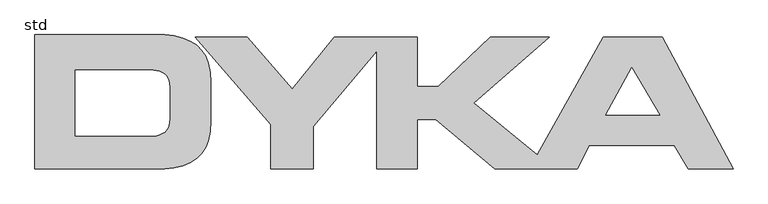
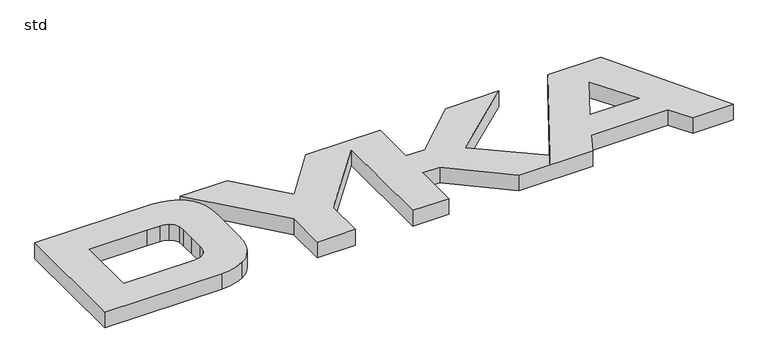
"""IFC4 building model written with IfcOpenShell, lengths in millimetres: flow terminal geometry, Dyka_Logo : std."""

from ifc_helpers import new_model, si_unit, point, frame_2d, origin, origin_with_axes, place, context, project, spatial, polyline, circle_curve, trimmed, segment, composite_curve, outline, extrude, source, transform, mapped, element, save


def std_3a02f17e(model_context):
    return source(origin(), model_context, "Body", "SweptSolid", [
        extrude(outline(composite_curve([segment(trimmed(circle_curve(frame_2d((-407.6218238, 142.0220605)), 114.8023161), [point((-404.9140154, 256.792438))], [point((-355.2267585, 244.1706234))], False, "CARTESIAN"), True, "CONTINUOUS"), segment(trimmed(circle_curve(frame_2d((-386.4123352, 184.7180485)), 67.1353026), [point((-355.2267585, 244.1706234))], [point((-321.7832771, 202.890382))], False, "CARTESIAN"), True, "CONTINUOUS"), segment(trimmed(circle_curve(frame_2d((-446.5963362, 168.0906986)), 129.5735995), [point((-321.7832771, 202.890382))], [point((-317.0389101, 166.0434992))], False, "CARTESIAN"), True, "CONTINUOUS"), segment(polyline([(-317.0389101, 166.0434992), (-317.0389101, 128.3962189), (-317.0389101, 90.7489386)]), True, "CONTINUOUS"), segment(trimmed(circle_curve(frame_2d((-446.5963362, 88.7017392)), 129.5735995), [point((-317.0389101, 90.7489386))], [point((-321.7832715, 53.9020758))], False, "CARTESIAN"), True, "CONTINUOUS"), segment(trimmed(circle_curve(frame_2d((-386.4123352, 72.0743895)), 67.1353026), [point((-321.7832715, 53.9020758))], [point((-355.2267585, 12.6218146))], False, "CARTESIAN"), True, "CONTINUOUS"), segment(trimmed(circle_curve(frame_2d((-407.6218238, 114.7703775)), 114.8023161), [point((-355.2267585, 12.6218146))], [point((-404.9140154, 0.0))], False, "CARTESIAN"), True, "CONTINUOUS"), segment(polyline([(-404.9140154, 0.0), (-653.2439211, 0.0), (-653.2439211, 256.792438), (-404.9140154, 256.792438)]), True, "CONTINUOUS")], self_intersect=False), holes=[composite_curve([segment(trimmed(circle_curve(frame_2d((-428.5478963, 147.8981447)), 41.3288337), [point((-409.6856729, 184.6716274))], [point((-427.573085, 189.2154805))], True, "CARTESIAN"), True, "CONTINUOUS"), segment(polyline([(-427.573085, 189.2154805), (-455.0181796, 189.2154805), (-576.6567028, 189.2154805), (-576.6567028, 63.0718268), (-427.573085, 63.0718268)]), True, "CONTINUOUS"), segment(trimmed(circle_curve(frame_2d((-428.5478963, 104.3891627)), 41.3288337), [point((-427.573085, 63.0718268))], [point((-409.6856729, 67.61568))], True, "CARTESIAN"), True, "CONTINUOUS"), segment(trimmed(circle_curve(frame_2d((-420.9124804, 89.018607)), 24.1687089), [point((-409.6856729, 67.61568))], [point((-397.6460231, 82.4765542))], True, "CARTESIAN"), True, "CONTINUOUS"), segment(trimmed(circle_curve(frame_2d((-442.5787209, 95.004453)), 46.6464959), [point((-397.6460231, 82.4765542))], [point((-395.9380474, 95.741446))], True, "CARTESIAN"), True, "CONTINUOUS"), segment(polyline([(-395.9380474, 95.741446), (-395.9380474, 128.3962189), (-395.9380474, 156.5458613)]), True, "CONTINUOUS"), segment(trimmed(circle_curve(frame_2d((-442.5787209, 157.2828544)), 46.6464959), [point((-395.9380474, 156.5458613))], [point((-397.6460231, 169.8107532))], True, "CARTESIAN"), True, "CONTINUOUS"), segment(trimmed(circle_curve(frame_2d((-420.9124804, 163.2687004)), 24.1687089), [point((-397.6460231, 169.8107532))], [point((-409.6856729, 184.6716274))], True, "CARTESIAN"), True, "CONTINUOUS")], self_intersect=False)]), origin_with_axes(), (0.0, 0.0, 1.0), 35.0),
        extrude(outline(polyline([(-346.8950477, 252.2873074), (-247.782177, 252.2873074), (-162.1255061, 153.2467818), (-81.0923489, 252.2873074), (76.5872183, 252.2873074), (76.5872183, 157.6795672), (117.1333928, 157.6795672), (216.2462636, 252.2873074), (328.8745259, 252.2873074), (184.7103501, 126.1436537), (306.3488734, 27.0307829), (432.4925271, 252.2873074), (545.1207893, 252.2873074), (680.274704, 0.0), (594.6772247, 0.0), (567.6464418, 45.0513048), (405.4617442, 45.0513048), (382.9360917, 0.0), (225.2565245, 0.0), (112.6282622, 94.6077404), (76.5872183, 94.6077404), (76.5872183, 0.0), (0.0, 0.0), (0.0, 225.2565245), (-121.6385233, 81.0923487), (-121.6385233, 0.0), (-202.730872, 0.0), (-202.730872, 85.5974793), (-346.8950477, 252.2873074)]), holes=[polyline([(486.5540931, 193.7206111), (436.9976577, 103.6180012), (540.6156589, 103.6180012), (486.5540931, 193.7206111)])]), origin_with_axes(), (0.0, 0.0, 1.0), 35.0),
    ])


if __name__ == "__main__":
    model = new_model("IFC4")
    model_context = context("Model", 3, world=origin())
    ifc_project = project(units=[si_unit("LENGTHUNIT", "METRE", prefix="MILLI")], contexts=[model_context])
    site = spatial("IfcSite", under=ifc_project)
    building = spatial("IfcBuilding", under=site)
    placement = place(None, origin())
    std_shape = std_3a02f17e(model_context)
    element("IfcFlowTerminal", 1, ObjectType="Dyka_Logo : std", at=placement, inside=building, context=model_context, shape_type="MappedRepresentation", body=[
        mapped(std_shape, transform((0.0, 0.0, 0.0), x_axis=(1.0, 0.0, 0.0), y_axis=(0.0, 1.0, 0.0), z_axis=(0.0, 0.0, 1.0))),
    ])
    save(model, "model.ifc")
